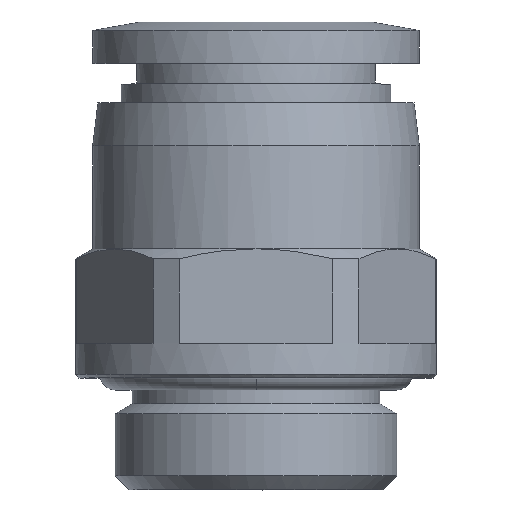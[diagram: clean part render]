
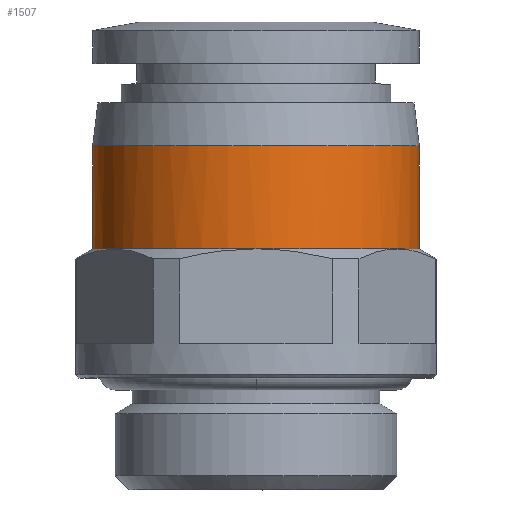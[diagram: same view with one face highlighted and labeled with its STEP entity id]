
A CAD part, top view. The second image highlights one B-rep face of the part: STEP entity #1507.
In plain terms, the highlighted cylindrical face has radius 9.5 mm (diameter 19 mm), a partial arc.
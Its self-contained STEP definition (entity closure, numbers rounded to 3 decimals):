
#32 = CARTESIAN_POINT ( 'NONE',  ( -6.131, 14., 7.304 ) ) ;
#66 = CARTESIAN_POINT ( 'NONE',  ( 2.487, 20., 9.253 ) ) ;
#91 = CARTESIAN_POINT ( 'NONE',  ( 1.658, 14., 9.391 ) ) ;
#169 = EDGE_CURVE ( 'NONE', #636, #1978, #1656, .T. ) ;
#275 = CARTESIAN_POINT ( 'NONE',  ( -9.5, 20., 1.244 ) ) ;
#279 = CARTESIAN_POINT ( 'NONE',  ( -1.658, 14., 9.391 ) ) ;
#287 = CARTESIAN_POINT ( 'NONE',  ( -2.487, 20., 9.253 ) ) ;
#321 = DIRECTION ( 'NONE',  ( 0., 1., 0. ) ) ;
#331 = VECTOR ( 'NONE', #1782, 1000. ) ;
#333 = CARTESIAN_POINT ( 'NONE',  ( -8.301, 20., 4.784 ) ) ;
#342 = CARTESIAN_POINT ( 'NONE',  ( 3.26, 14., 8.962 ) ) ;
#444 = EDGE_CURVE ( 'NONE', #903, #876, #2423, .T. ) ;
#475 = CARTESIAN_POINT ( 'NONE',  ( 8.962, 14., 3.26 ) ) ;
#498 = CARTESIAN_POINT ( 'NONE',  ( -8.227, 14., 4.75 ) ) ;
#523 = CYLINDRICAL_SURFACE ( 'NONE', #2036, 9.5 ) ;
#528 = CARTESIAN_POINT ( 'NONE',  ( -5.468, 14., 7.813 ) ) ;
#551 = EDGE_CURVE ( 'NONE', #2926, #876, #3013, .T. ) ;
#553 = FACE_OUTER_BOUND ( 'NONE', #2685, .T. ) ;
#567 = CARTESIAN_POINT ( 'NONE',  ( -9.5, 20., 0. ) ) ;
#636 = VERTEX_POINT ( 'NONE', #3109 ) ;
#660 = CARTESIAN_POINT ( 'NONE',  ( 8.227, 14., 4.75 ) ) ;
#790 = CARTESIAN_POINT ( 'NONE',  ( -5.838, 20., 7.597 ) ) ;
#799 = ORIENTED_EDGE ( 'NONE', *, *, #169, .T. ) ;
#852 = EDGE_CURVE ( 'NONE', #2926, #3125, #1558, .T. ) ;
#876 = VERTEX_POINT ( 'NONE', #2256 ) ;
#877 = CARTESIAN_POINT ( 'NONE',  ( 4.032, 14., 8.642 ) ) ;
#903 = VERTEX_POINT ( 'NONE', #3006 ) ;
#1034 = CARTESIAN_POINT ( 'NONE',  ( 7.597, 20., 5.838 ) ) ;
#1049 = CARTESIAN_POINT ( 'NONE',  ( 1.244, 20., 9.5 ) ) ;
#1070 = CARTESIAN_POINT ( 'NONE',  ( 7.304, 14., 6.131 ) ) ;
#1089 = CARTESIAN_POINT ( 'NONE',  ( -8.227, 14., 4.75 ) ) ;
#1104 = CARTESIAN_POINT ( 'NONE',  ( -9.5, 14., 0.829 ) ) ;
#1245 = ORIENTED_EDGE ( 'NONE', *, *, #2455, .F. ) ;
#1254 = VERTEX_POINT ( 'NONE', #660 ) ;
#1297 = CARTESIAN_POINT ( 'NONE',  ( 4.784, 20., 8.301 ) ) ;
#1310 = CARTESIAN_POINT ( 'NONE',  ( 5.838, 20., 7.597 ) ) ;
#1317 = CARTESIAN_POINT ( 'NONE',  ( 7.813, 14., 5.468 ) ) ;
#1319 = CARTESIAN_POINT ( 'NONE',  ( -9.391, 14., 1.658 ) ) ;
#1335 = CARTESIAN_POINT ( 'NONE',  ( -8.962, 14., 3.26 ) ) ;
#1338 = CARTESIAN_POINT ( 'NONE',  ( -7.597, 20., 5.838 ) ) ;
#1347 = CARTESIAN_POINT ( 'NONE',  ( 0., 14., 9.5 ) ) ;
#1428 = ORIENTED_EDGE ( 'NONE', *, *, #444, .F. ) ;
#1488 = EDGE_CURVE ( 'NONE', #1978, #3125, #2815, .T. ) ;
#1489 = CARTESIAN_POINT ( 'NONE',  ( 9.5, 14., 0. ) ) ;
#1495 = CARTESIAN_POINT ( 'NONE',  ( 0., 14., 9.5 ) ) ;
#1507 = ADVANCED_FACE ( 'NONE', ( #553 ), #523, .T. ) ;
#1556 = CARTESIAN_POINT ( 'NONE',  ( -7.304, 14., 6.131 ) ) ;
#1558 = LINE ( 'NONE', #2299, #331 ) ;
#1594 = CARTESIAN_POINT ( 'NONE',  ( 9.5, 20., 1.244 ) ) ;
#1623 = CARTESIAN_POINT ( 'NONE',  ( 6.131, 14., 7.304 ) ) ;
#1656 = LINE ( 'NONE', #2117, #2646 ) ;
#1680 = ORIENTED_EDGE ( 'NONE', *, *, #3120, .T. ) ;
#1746 = CARTESIAN_POINT ( 'NONE',  ( -0.829, 14., 9.5 ) ) ;
#1761 = CARTESIAN_POINT ( 'NONE',  ( -3.26, 14., 8.962 ) ) ;
#1782 = DIRECTION ( 'NONE',  ( 0., 1., 0. ) ) ;
#1948 = CARTESIAN_POINT ( 'NONE',  ( 9.5, 20., 0. ) ) ;
#1978 = VERTEX_POINT ( 'NONE', #1948 ) ;
#2005 = CARTESIAN_POINT ( 'NONE',  ( -9.5, 20., 0. ) ) ;
#2019 = CARTESIAN_POINT ( 'NONE',  ( 9.391, 14., 1.658 ) ) ;
#2034 = CARTESIAN_POINT ( 'NONE',  ( 9.253, 20., 2.487 ) ) ;
#2036 = AXIS2_PLACEMENT_3D ( 'NONE', #3045, #2801, #2537 ) ;
#2093 = CARTESIAN_POINT ( 'NONE',  ( 9.5, 20., 0. ) ) ;
#2117 = CARTESIAN_POINT ( 'NONE',  ( 9.5, 17., 0. ) ) ;
#2134 = CARTESIAN_POINT ( 'NONE',  ( 0.829, 14., 9.5 ) ) ;
#2159 = ORIENTED_EDGE ( 'NONE', *, *, #551, .T. ) ;
#2256 = CARTESIAN_POINT ( 'NONE',  ( -8.227, 14., 4.75 ) ) ;
#2263 = CARTESIAN_POINT ( 'NONE',  ( 8.642, 14., 4.032 ) ) ;
#2299 = CARTESIAN_POINT ( 'NONE',  ( -9.5, 17., 0. ) ) ;
#2305 = CARTESIAN_POINT ( 'NONE',  ( -1.244, 20., 9.5 ) ) ;
#2358 = CARTESIAN_POINT ( 'NONE',  ( -9.5, 14., 0. ) ) ;
#2391 = CARTESIAN_POINT ( 'NONE',  ( 8.227, 14., 4.75 ) ) ;
#2423 = B_SPLINE_CURVE_WITH_KNOTS ( 'NONE', 3,
 ( #1495, #1746, #279, #1761, #3050, #528, #32, #1556, #2558, #498 ),
 .UNSPECIFIED., .F., .F.,
 ( 4, 2, 2, 2, 4 ),
 ( 0., 0.25, 0.5, 0.75, 1. ),
 .UNSPECIFIED. ) ;
#2455 = EDGE_CURVE ( 'NONE', #1254, #903, #3151, .T. ) ;
#2537 = DIRECTION ( 'NONE',  ( -1., 0., 0. ) ) ;
#2558 = CARTESIAN_POINT ( 'NONE',  ( -7.813, 14., 5.468 ) ) ;
#2606 = CARTESIAN_POINT ( 'NONE',  ( 5.468, 14., 7.813 ) ) ;
#2639 = CARTESIAN_POINT ( 'NONE',  ( -8.642, 14., 4.032 ) ) ;
#2646 = VECTOR ( 'NONE', #321, 1000. ) ;
#2685 = EDGE_LOOP ( 'NONE', ( #1680, #799, #2803, #3197, #2159, #1428, #1245 ) ) ;
#2740 = CARTESIAN_POINT ( 'NONE',  ( 8.227, 14., 4.75 ) ) ;
#2801 = DIRECTION ( 'NONE',  ( 0., 1., 0. ) ) ;
#2803 = ORIENTED_EDGE ( 'NONE', *, *, #1488, .T. ) ;
#2815 = B_SPLINE_CURVE_WITH_KNOTS ( 'NONE', 3,
 ( #2093, #1594, #2034, #3057, #1034, #1310, #1297, #66, #1049, #2305, #287, #3068, #790, #1338, #333, #2841, #275, #567 ),
 .UNSPECIFIED., .F., .F.,
 ( 4, 2, 2, 2, 2, 2, 2, 2, 4 ),
 ( 0.5, 0.563, 0.625, 0.687, 0.75, 0.812, 0.875, 0.938, 1. ),
 .UNSPECIFIED. ) ;
#2841 = CARTESIAN_POINT ( 'NONE',  ( -9.253, 20., 2.487 ) ) ;
#2926 = VERTEX_POINT ( 'NONE', #3034 ) ;
#3006 = CARTESIAN_POINT ( 'NONE',  ( 0., 14., 9.5 ) ) ;
#3013 = B_SPLINE_CURVE_WITH_KNOTS ( 'NONE', 3,
 ( #2358, #1104, #1319, #1335, #2639, #1089 ),
 .UNSPECIFIED., .F., .F.,
 ( 4, 2, 4 ),
 ( 0.5, 0.75, 1. ),
 .UNSPECIFIED. ) ;
#3015 = CARTESIAN_POINT ( 'NONE',  ( 9.5, 14., 0.829 ) ) ;
#3019 = B_SPLINE_CURVE_WITH_KNOTS ( 'NONE', 3,
 ( #2740, #2263, #475, #2019, #3015, #1489 ),
 .UNSPECIFIED., .F., .F.,
 ( 4, 2, 4 ),
 ( 0., 0.25, 0.5 ),
 .UNSPECIFIED. ) ;
#3034 = CARTESIAN_POINT ( 'NONE',  ( -9.5, 14., 0. ) ) ;
#3045 = CARTESIAN_POINT ( 'NONE',  ( 0., 17., 0. ) ) ;
#3050 = CARTESIAN_POINT ( 'NONE',  ( -4.032, 14., 8.642 ) ) ;
#3057 = CARTESIAN_POINT ( 'NONE',  ( 8.301, 20., 4.784 ) ) ;
#3068 = CARTESIAN_POINT ( 'NONE',  ( -4.784, 20., 8.301 ) ) ;
#3109 = CARTESIAN_POINT ( 'NONE',  ( 9.5, 14., 0. ) ) ;
#3120 = EDGE_CURVE ( 'NONE', #1254, #636, #3019, .T. ) ;
#3125 = VERTEX_POINT ( 'NONE', #2005 ) ;
#3151 = B_SPLINE_CURVE_WITH_KNOTS ( 'NONE', 3,
 ( #2391, #1317, #1070, #1623, #2606, #877, #342, #91, #2134, #1347 ),
 .UNSPECIFIED., .F., .F.,
 ( 4, 2, 2, 2, 4 ),
 ( 0., 0.25, 0.5, 0.75, 1. ),
 .UNSPECIFIED. ) ;
#3197 = ORIENTED_EDGE ( 'NONE', *, *, #852, .F. ) ;
